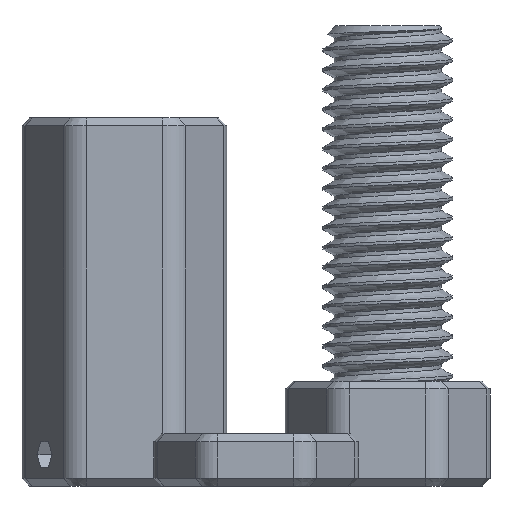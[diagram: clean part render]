
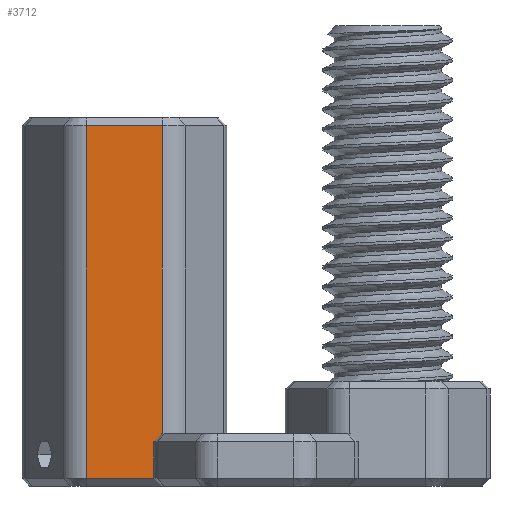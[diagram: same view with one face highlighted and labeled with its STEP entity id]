
A CAD part, front view. The second image highlights one B-rep face of the part: STEP entity #3712.
In plain terms, the highlighted planar face has unit normal (0, -1, 0).
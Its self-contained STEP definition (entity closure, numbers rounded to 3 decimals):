
#82=PLANE('',#4017);
#256=FACE_OUTER_BOUND('',#480,.T.);
#480=EDGE_LOOP('',(#2868,#2869,#2870,#2871));
#970=LINE('',#8315,#1259);
#1008=LINE('',#8409,#1297);
#1010=LINE('',#9117,#1299);
#1011=LINE('',#9119,#1300);
#1259=VECTOR('',#4476,10.);
#1297=VECTOR('',#4588,10.);
#1299=VECTOR('',#4604,10.);
#1300=VECTOR('',#4607,10.);
#1597=VERTEX_POINT('',#8307);
#1599=VERTEX_POINT('',#8313);
#1617=VERTEX_POINT('',#8403);
#1618=VERTEX_POINT('',#8407);
#2006=EDGE_CURVE('',#1599,#1597,#970,.T.);
#2055=EDGE_CURVE('',#1617,#1618,#1008,.T.);
#2060=EDGE_CURVE('',#1618,#1599,#1010,.T.);
#2061=EDGE_CURVE('',#1597,#1617,#1011,.T.);
#2868=ORIENTED_EDGE('',*,*,#2006,.F.);
#2869=ORIENTED_EDGE('',*,*,#2060,.F.);
#2870=ORIENTED_EDGE('',*,*,#2055,.F.);
#2871=ORIENTED_EDGE('',*,*,#2061,.F.);
#3712=ADVANCED_FACE('',(#256),#82,.T.);
#4017=AXIS2_PLACEMENT_3D('',#9120,#4608,#4609);
#4476=DIRECTION('',(-1.,0.,0.));
#4588=DIRECTION('',(1.,0.,0.));
#4604=DIRECTION('',(0.,0.,-1.));
#4607=DIRECTION('',(0.,0.,1.));
#4608=DIRECTION('center_axis',(0.,-1.,0.));
#4609=DIRECTION('ref_axis',(1.,0.,0.));
#8307=CARTESIAN_POINT('',(-2.887,-7.,0.6));
#8313=CARTESIAN_POINT('',(2.887,-7.,0.6));
#8315=CARTESIAN_POINT('',(-2.021,-7.,0.6));
#8403=CARTESIAN_POINT('',(-2.887,-7.,27.4));
#8407=CARTESIAN_POINT('',(2.887,-7.,27.4));
#8409=CARTESIAN_POINT('',(-2.021,-7.,27.4));
#9117=CARTESIAN_POINT('',(2.887,-7.,0.));
#9119=CARTESIAN_POINT('',(-2.887,-7.,0.));
#9120=CARTESIAN_POINT('Origin',(-4.041,-7.,0.));
